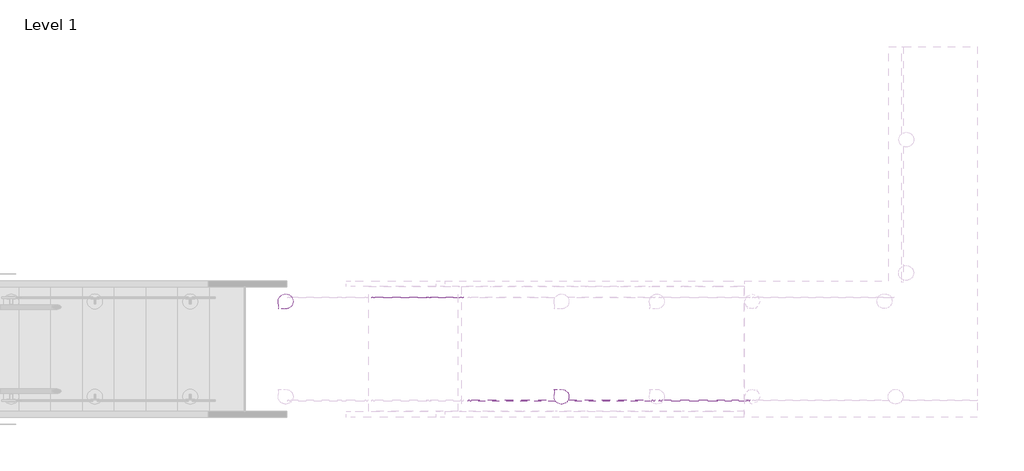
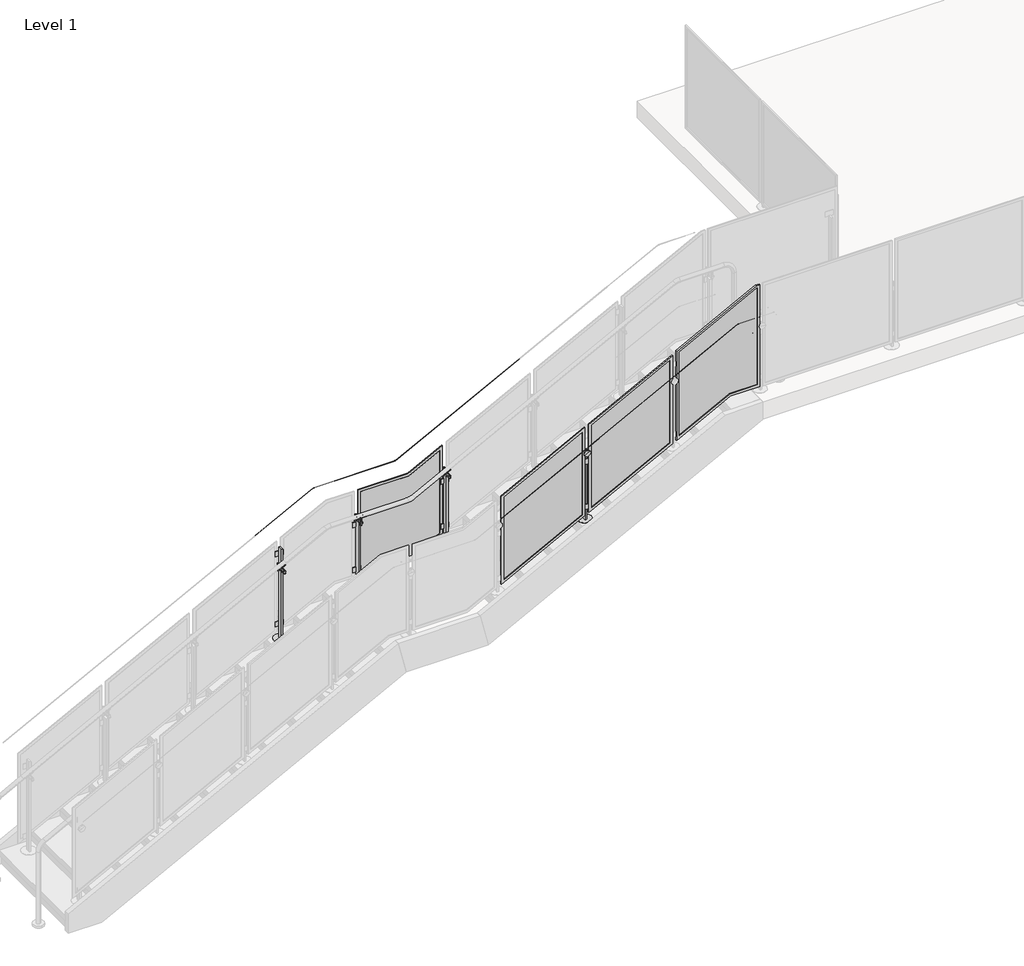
# One storey, part 26 of 28: 4 railings.
"""IFC4 building model written with IfcOpenShell, lengths in millimetres."""

from ifc_helpers import new_model, si_unit, point, frame, frame_2d, origin, place, context, project, spatial, polyline, circle_curve, ellipse_curve, trimmed, segment, composite_curve, outline, extrude, transform, mapped, element, save
from ifc_brep_helpers import plane_surface, cylinder_surface, advanced_brep
from components import standard_pp01_9a46c041, standard_pp01_feaec1d1

model = new_model("IFC4")

# Units and contexts
model_context = context("Model", 3, world=origin())
ifc_project = project(units=[si_unit("LENGTHUNIT", "METRE", prefix="MILLI")], contexts=[model_context])

# Site, building, storey
site = spatial("IfcSite", under=ifc_project)
building = spatial("IfcBuilding", under=site)
storey = spatial("IfcBuildingStorey", under=building, Name="Level 1", Elevation=0.0)

# Railings
placement = place(None, origin())
element("IfcRailing", 1, ObjectType="Metal-Panel-VIVA-STRUC-Top_Core-Stairs-Upper", at=placement, inside=storey, context=model_context, shape_type="SolidModel", body=[
    advanced_brep(
    [(-14795.2265621, 8263.5937722, 2849.6818907), (-14795.2265621, 8264.5937722, 2849.6818907), (-13118.8265621, 8263.5937722, 3720.5390336), (-13118.8265621, 8264.5937722, 3720.5390336)],
    [
        (0, 1, ellipse_curve(frame((-14795.2265621, 8264.0937722, 2849.6818907), z_axis=(-1.0, 0.0, 0.0), x_axis=(0.0, 0.0, -1.0)), 0.5634403, 0.5)),
        (1, 0, ellipse_curve(frame((-14795.2265621, 8264.0937722, 2849.6818907), z_axis=(-1.0, 0.0, 0.0), x_axis=(0.0, 0.0, -1.0)), 0.5634403, 0.5)),
        (2, 3, ellipse_curve(frame((-13118.8265621, 8264.0937722, 3720.5390336), z_axis=(1.0, 0.0, 0.0), x_axis=(0.0, 0.0, -1.0)), 0.5634403, 0.5)),
        (3, 2, ellipse_curve(frame((-13118.8265621, 8264.0937722, 3720.5390336), z_axis=(1.0, 0.0, 0.0), x_axis=(0.0, 0.0, -1.0)), 0.5634403, 0.5)),
        (0, 2),
        (3, 1),
    ],
    [
        plane_surface(frame((-14795.2265621, 8264.0937722, 2850.2453311), z_axis=(-1.0, 0.0, 0.0), x_axis=(0.0, 1.0, 0.0))),
        plane_surface(frame((-13118.8265621, 8264.0937722, 3721.1024739), z_axis=(1.0, 0.0, 0.0), x_axis=(0.0, 1.0, 0.0))),
        cylinder_surface(frame((-14794.9960672, 8264.0937722, 2849.8016284), z_axis=(-0.8874054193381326, 0.0, -0.46098982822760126), x_axis=(0.0, 1.0, 0.0)), 0.5),
    ],
    [
        (0, [[1, 2]]),
        (1, [[3, 4]]),
        (2, [[-1, 5, -4, 6]]),
        (2, [[-2, -6, -3, -5]]),
    ],
),
    extrude(outline(polyline([(3277.6949144, -13912.5806052), (2443.6978914, -13912.5806052), (2832.9488452, -13163.2725191), (3666.9458682, -13163.2725191), (3277.6949144, -13912.5806052)])), frame((0.0, 8475.1125722, 0.0), z_axis=(0.0, 1.0, 0.0), x_axis=(0.0, 0.0, 1.0)), (0.0, 0.0, 1.0), 3.0),
    extrude(outline(polyline([(2401.8803176, -13937.9806052), (2817.5208818, -13137.8725191), (3708.7634421, -13137.8725191), (3293.1228778, -13937.9806052), (2401.8803176, -13937.9806052)]), holes=[polyline([(3277.6949144, -13912.5806052), (3666.9458682, -13163.2725191), (2832.9488452, -13163.2725191), (2443.6978914, -13912.5806052), (3277.6949144, -13912.5806052)])]), frame((0.0, 8468.5875722, 0.0), z_axis=(0.0, 1.0, 0.0), x_axis=(0.0, 0.0, 1.0)), (0.0, 0.0, 1.0), 9.525),
    extrude(outline(polyline([(-13995.1272814, 8485.1469722), (-13918.9258429, 8485.1469722), (-13918.9258429, 8478.0349722), (-13995.1272814, 8478.0349722), (-13995.1272814, 8485.1469722)])), frame((0.0, 0.0, 2892.2617143), z_axis=(0.0, 0.0, 1.0), x_axis=(1.0, 0.0, 0.0)), (0.0, 0.0, 1.0), 50.8),
    extrude(outline(polyline([(-13995.1272814, 8485.1469722), (-13918.9258429, 8485.1469722), (-13918.9258429, 8478.0349722), (-13995.1272814, 8478.0349722), (-13995.1272814, 8485.1469722)])), frame((0.0, 0.0, 2435.0617143), z_axis=(0.0, 0.0, 1.0), x_axis=(1.0, 0.0, 0.0)), (0.0, 0.0, 1.0), 50.8),
    extrude(outline(composite_curve([segment(polyline([(2.9997399, 0.0), (0.0, 0.0)]), True, "CONTINUOUS"), segment(trimmed(circle_curve(frame_2d((-19.0451472, -1e-07)), 19.0451471), [point((0.0, 0.0))], [point((-23.6280664, 18.4855208))], True, "CARTESIAN"), True, "CONTINUOUS"), segment(polyline([(-23.6280664, 18.4855208), (-24.3499073, 21.3971159)]), True, "CONTINUOUS"), segment(trimmed(circle_curve(frame_2d((-19.0451472, -1e-07)), 22.0448871), [point((-24.3499073, 21.3971159))], [point((2.9997399, 0.0))], False, "CARTESIAN"), True, "CONTINUOUS")], self_intersect=False)), frame((-14019.5142726, 8539.2349722, 3044.0256993), z_axis=(0.8874054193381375, 0.0, 0.4609898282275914), x_axis=(0.2840545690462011, -0.7876022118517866, -0.5468050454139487)), (0.0, 0.0, 1.0), 79.1184357),
    advanced_brep(
    [(-13944.6293845, 8554.2349722, 2985.6859356), (-13944.6293845, 8547.0912222, 2985.6859356), (-13944.6293845, 8561.3787222, 2985.6859356), (-13980.4886307, 8547.0912222, 3054.7149846), (-13980.4886307, 8554.2349722, 3054.7149846), (-13980.4886307, 8561.3787222, 3054.7149846)],
    [
        (0, 1),
        (1, 2, circle_curve(frame((-13944.6293845, 8554.2349722, 2985.6859356), z_axis=(0.4609898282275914, 0.0, -0.8874054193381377), x_axis=(0.0, 1.0, 0.0)), 7.14375)),
        (2, 0),
        (3, 4),
        (4, 5),
        (5, 3, circle_curve(frame((-13980.4886307, 8554.2349722, 3054.7149846), z_axis=(-0.4609898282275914, 0.0, 0.8874054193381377), x_axis=(0.0, 1.0, 0.0)), 7.14375)),
        (2, 1, circle_curve(frame((-13944.6293845, 8554.2349722, 2985.6859356), z_axis=(0.4609898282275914, 0.0, -0.8874054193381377), x_axis=(0.0, 1.0, 0.0)), 7.14375)),
        (3, 5, circle_curve(frame((-13980.4886307, 8554.2349722, 3054.7149846), z_axis=(-0.4609898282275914, 0.0, 0.8874054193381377), x_axis=(0.0, 1.0, 0.0)), 7.14375)),
        (1, 3),
        (5, 2),
    ],
    [
        plane_surface(frame((-13944.6293845, 8554.2349722, 2985.6859356), z_axis=(0.4609898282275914, 0.0, -0.8874054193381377), x_axis=(0.0, 1.0, 0.0))),
        plane_surface(frame((-13980.4886307, 8554.2349722, 3054.7149846), z_axis=(-0.4609898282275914, 0.0, 0.8874054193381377), x_axis=(0.0, 1.0, 0.0))),
        cylinder_surface(frame((-13827.6751846, 8554.2349722, 2760.5491008), z_axis=(0.4609898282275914, 0.0, -0.8874054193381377), x_axis=(0.0, 1.0, 0.0)), 7.14375),
    ],
    [
        (0, [[1, 2, 3]]),
        (1, [[4, 5, 6]]),
        (0, [[-3, 7, -1]]),
        (1, [[-5, -4, 8]]),
        (2, [[9, -6, 10, -2]]),
        (2, [[-10, -8, -9, -7]]),
    ],
),
    advanced_brep(
    [(-13983.7929281, 8468.5099722, 2995.6458968), (-13962.6615865, 8468.5099722, 3006.6232171), (-13951.3915377, 8468.5099722, 3012.4777879), (-13930.2601962, 8468.5099722, 3023.4551082), (-13983.7929281, 8460.5724722, 2995.6458968), (-13930.2601962, 8460.5724722, 3023.4551082), (-13983.7929281, 8485.9724722, 2995.6458968), (-13968.2966109, 8485.9724722, 3003.6959317), (-13945.7565133, 8485.9724722, 3015.4050733), (-13930.2601962, 8485.9724722, 3023.4551082), (-13983.7929281, 8478.0349722, 2995.6458968), (-13930.2601962, 8478.0349722, 3023.4551082), (-13957.0265621, 8460.5724722, 3009.5505025), (-13968.2966109, 8565.3474722, 3003.6959317), (-13957.0265621, 8565.3474722, 3009.5505025), (-13945.7565133, 8565.3474722, 3015.4050733), (-13962.6615865, 8478.0349722, 3006.6232171), (-13951.3915377, 8478.0349722, 3012.4777879)],
    [
        (0, 1),
        (1, 2, circle_curve(frame((-13957.0265621, 8468.5099722, 3009.5505025), z_axis=(0.0, -1.0, 0.0), x_axis=(0.8874054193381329, 0.0, 0.4609898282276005)), 6.35)),
        (2, 3),
        (3, 0, circle_curve(frame((-13957.0265621, 8468.5099722, 3009.5505025), z_axis=(0.0, 1.0, 0.0), x_axis=(0.8874054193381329, 0.0, 0.4609898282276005)), 30.1625)),
        (4, 0),
        (3, 5),
        (5, 4, circle_curve(frame((-13957.0265621, 8460.5724722, 3009.5505025), z_axis=(0.0, 1.0, 0.0), x_axis=(0.8874054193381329, 0.0, 0.4609898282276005)), 30.1625)),
        (6, 7),
        (7, 8, circle_curve(frame((-13957.0265621, 8485.9724722, 3009.5505025), z_axis=(0.0, -1.0, 0.0), x_axis=(0.8874054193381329, 0.0, 0.4609898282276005)), 12.7)),
        (8, 9),
        (9, 6, circle_curve(frame((-13957.0265621, 8485.9724722, 3009.5505025), z_axis=(0.0, 1.0, 0.0), x_axis=(0.8874054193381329, 0.0, 0.4609898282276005)), 30.1625)),
        (10, 6),
        (9, 11),
        (11, 10, circle_curve(frame((-13957.0265621, 8478.0349722, 3009.5505025), z_axis=(0.0, 1.0, 0.0), x_axis=(0.8874054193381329, 0.0, 0.4609898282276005)), 30.1625)),
        (3, 0, circle_curve(frame((-13957.0265621, 8468.5099722, 3009.5505025), z_axis=(0.0, -1.0, 0.0), x_axis=(0.8874054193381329, 0.0, 0.4609898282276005)), 30.1625)),
        (4, 5, circle_curve(frame((-13957.0265621, 8460.5724722, 3009.5505025), z_axis=(0.0, 1.0, 0.0), x_axis=(0.8874054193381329, 0.0, 0.4609898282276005)), 30.1625)),
        (12, 4),
        (5, 12),
        (13, 14),
        (14, 15),
        (15, 13, circle_curve(frame((-13957.0265621, 8565.3474722, 3009.5505025), z_axis=(0.0, 1.0, 0.0), x_axis=(0.8874054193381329, 0.0, 0.4609898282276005)), 12.7)),
        (13, 15, circle_curve(frame((-13957.0265621, 8565.3474722, 3009.5505025), z_axis=(0.0, 1.0, 0.0), x_axis=(0.8874054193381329, 0.0, 0.4609898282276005)), 12.7)),
        (7, 13),
        (15, 8),
        (7, 8, circle_curve(frame((-13957.0265621, 8485.9724722, 3009.5505025), z_axis=(0.0, 1.0, 0.0), x_axis=(0.8874054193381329, 0.0, 0.4609898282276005)), 12.7)),
        (6, 9, circle_curve(frame((-13957.0265621, 8485.9724722, 3009.5505025), z_axis=(0.0, 1.0, 0.0), x_axis=(0.8874054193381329, 0.0, 0.4609898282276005)), 30.1625)),
        (10, 11, circle_curve(frame((-13957.0265621, 8478.0349722, 3009.5505025), z_axis=(0.0, 1.0, 0.0), x_axis=(0.8874054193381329, 0.0, 0.4609898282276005)), 30.1625)),
        (16, 10),
        (11, 17),
        (17, 16, circle_curve(frame((-13957.0265621, 8478.0349722, 3009.5505025), z_axis=(0.0, 1.0, 0.0), x_axis=(0.8874054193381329, 0.0, 0.4609898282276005)), 6.35)),
        (16, 17, circle_curve(frame((-13957.0265621, 8478.0349722, 3009.5505025), z_axis=(0.0, 1.0, 0.0), x_axis=(0.8874054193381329, 0.0, 0.4609898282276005)), 6.35)),
        (1, 16),
        (17, 2),
        (1, 2, circle_curve(frame((-13957.0265621, 8468.5099722, 3009.5505025), z_axis=(0.0, 1.0, 0.0), x_axis=(0.8874054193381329, 0.0, 0.4609898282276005)), 6.35)),
    ],
    [
        plane_surface(frame((-13957.0265621, 8468.5099722, 3009.5505025), z_axis=(0.0, 1.0, 0.0), x_axis=(0.8874054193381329, 0.0, 0.4609898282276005))),
        cylinder_surface(frame((-13957.0265621, 6954.0349722, 3009.5505025), z_axis=(0.0, -1.0, 0.0), x_axis=(0.8874054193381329, 0.0, 0.4609898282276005)), 30.1625),
        plane_surface(frame((-13957.0265621, 8485.9724722, 3009.5505025), z_axis=(0.0, 1.0, 0.0), x_axis=(0.8874054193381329, 0.0, 0.4609898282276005))),
        plane_surface(frame((-13957.0265621, 8460.5724722, 3009.5505025), z_axis=(0.0, -1.0, 0.0), x_axis=(0.8874054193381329, 0.0, 0.4609898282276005))),
        plane_surface(frame((-13957.0265621, 8565.3474722, 3009.5505025), z_axis=(0.0, 1.0, 0.0), x_axis=(0.8874054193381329, 0.0, 0.4609898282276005))),
        cylinder_surface(frame((-13957.0265621, 6954.0349722, 3009.5505025), z_axis=(0.0, -1.0, 0.0), x_axis=(0.8874054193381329, 0.0, 0.4609898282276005)), 12.7),
        plane_surface(frame((-13957.0265621, 8478.0349722, 3009.5505025), z_axis=(0.0, -1.0, 0.0), x_axis=(0.8874054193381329, 0.0, 0.4609898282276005))),
        cylinder_surface(frame((-13957.0265621, 6954.0349722, 3009.5505025), z_axis=(0.0, -1.0, 0.0), x_axis=(0.8874054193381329, 0.0, 0.4609898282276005)), 6.35),
    ],
    [
        (0, [[1, 2, 3, 4]]),
        (1, [[5, -4, 6, 7]]),
        (2, [[8, 9, 10, 11]]),
        (1, [[12, -11, 13, 14]]),
        (1, [[-6, 15, -5, 16]]),
        (3, [[17, -7, 18]]),
        (3, [[-18, -16, -17]]),
        (4, [[19, 20, 21]]),
        (4, [[-20, -19, 22]]),
        (5, [[23, -21, 24, -9]]),
        (5, [[-24, -22, -23, 25]]),
        (2, [[-10, -25, -8, 26]]),
        (1, [[-13, -26, -12, 27]]),
        (6, [[28, -14, 29, 30]]),
        (6, [[-29, -27, -28, 31]]),
        (7, [[32, -30, 33, -2]]),
        (7, [[-33, -31, -32, 34]]),
        (0, [[-3, -34, -1, -15]]),
    ],
),
    extrude(outline(composite_curve([segment(trimmed(circle_curve(frame_2d((-13957.0265621, 8507.3719722)), 65.8876), [point((-13957.0265621, 8441.4843722))], [point((-13957.0265621, 8573.2595722))], False, "CARTESIAN"), True, "CONTINUOUS"), segment(trimmed(circle_curve(frame_2d((-13957.0265621, 8507.3719722)), 65.8876), [point((-13957.0265621, 8573.2595722))], [point((-13957.0265621, 8441.4843722))], False, "CARTESIAN"), True, "CONTINUOUS")], self_intersect=False)), frame((0.0, 0.0, 2322.2857143), z_axis=(0.0, 0.0, 1.0), x_axis=(1.0, 0.0, 0.0)), (0.0, 0.0, 1.0), 2.9821299),
    extrude(outline(polyline([(-13964.9661538, 8529.5969722), (-13949.0869705, 8529.5969722), (-13949.0869705, 8485.1469722), (-13964.9661538, 8485.1469722), (-13964.9661538, 8529.5969722)])), frame((0.0, 0.0, 2220.6857143), z_axis=(0.0, 0.0, 1.0), x_axis=(1.0, 0.0, 0.0)), (0.0, 0.0, 1.0), 762.0),
    extrude(outline(polyline([(2842.266343, -14750.7806052), (2008.26932, -14750.7806052), (2397.5202738, -14001.4725191), (3231.5172968, -14001.4725191), (2842.266343, -14750.7806052)])), frame((0.0, 8475.1125722, 0.0), z_axis=(0.0, 1.0, 0.0), x_axis=(0.0, 0.0, 1.0)), (0.0, 0.0, 1.0), 3.0),
    extrude(outline(polyline([(1966.4517462, -14776.1806052), (2382.0923104, -13976.0725191), (3273.3348706, -13976.0725191), (2857.6943064, -14776.1806052), (1966.4517462, -14776.1806052)]), holes=[polyline([(2842.266343, -14750.7806052), (3231.5172968, -14001.4725191), (2397.5202738, -14001.4725191), (2008.26932, -14750.7806052), (2842.266343, -14750.7806052)])]), frame((0.0, 8468.5875722, 0.0), z_axis=(0.0, 1.0, 0.0), x_axis=(0.0, 0.0, 1.0)), (0.0, 0.0, 1.0), 9.525),
])
element("IfcRailing", 2, ObjectType="Metal-Panel-VIVA-STRUC-Top_Core-Stairs-Landing", at=placement, inside=storey, context=model_context, shape_type="SolidModel", body=[
    advanced_brep(
    [(-16484.3313244, 9587.7913722, 2381.2638324), (-16484.3313244, 9588.7913722, 2381.2638324), (-15931.7592018, 9587.7913722, 2668.3142857), (-15931.7592018, 9588.7913722, 2668.3142857), (-15144.3592018, 9587.7913722, 2668.3142857), (-15144.3592018, 9588.7913722, 2668.3142857), (-13959.1395244, 9587.7913722, 3284.0128194), (-13959.1395244, 9588.7913722, 3284.0128194)],
    [
        (0, 1, ellipse_curve(frame((-16484.3313244, 9588.2913722, 2381.2638324), z_axis=(-1.0, 0.0, 0.0), x_axis=(0.0, 0.0, -1.0)), 0.5634403, 0.5)),
        (1, 0, ellipse_curve(frame((-16484.3313244, 9588.2913722, 2381.2638324), z_axis=(-1.0, 0.0, 0.0), x_axis=(0.0, 0.0, -1.0)), 0.5634403, 0.5)),
        (0, 2),
        (2, 3, ellipse_curve(frame((-15931.7592018, 9588.2913722, 2668.3142857), z_axis=(-0.9714436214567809, 0.0, -0.23727050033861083), x_axis=(0.23727050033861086, 0.0, -0.9714436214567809)), 0.5146979, 0.5)),
        (3, 1),
        (3, 2, ellipse_curve(frame((-15931.7592018, 9588.2913722, 2668.3142857), z_axis=(-0.9714436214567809, 0.0, -0.23727050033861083), x_axis=(0.23727050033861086, 0.0, -0.9714436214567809)), 0.5146979, 0.5)),
        (2, 4),
        (4, 5, ellipse_curve(frame((-15144.3592018, 9588.2913722, 2668.3142857), z_axis=(-0.9714436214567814, 0.0, -0.23727050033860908), x_axis=(-0.23727050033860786, 0.0, 0.9714436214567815)), 0.5146979, 0.5)),
        (5, 3),
        (5, 4, ellipse_curve(frame((-15144.3592018, 9588.2913722, 2668.3142857), z_axis=(-0.9714436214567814, 0.0, -0.23727050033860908), x_axis=(-0.23727050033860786, 0.0, 0.9714436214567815)), 0.5146979, 0.5)),
        (6, 7, ellipse_curve(frame((-13959.1395244, 9588.2913722, 3284.0128194), z_axis=(1.0, 0.0, 0.0), x_axis=(0.0, 0.0, -1.0)), 0.5634403, 0.5)),
        (7, 6, ellipse_curve(frame((-13959.1395244, 9588.2913722, 3284.0128194), z_axis=(1.0, 0.0, 0.0), x_axis=(0.0, 0.0, -1.0)), 0.5634403, 0.5)),
        (4, 6),
        (7, 5),
    ],
    [
        plane_surface(frame((-16484.3313244, 9588.2913722, 2381.8272727), z_axis=(-1.0, 0.0, 0.0), x_axis=(0.0, 1.0, 0.0))),
        cylinder_surface(frame((-16484.1008295, 9588.2913722, 2381.38357), z_axis=(-0.8874054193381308, 0.0, -0.4609898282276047), x_axis=(0.0, 1.0, 0.0)), 0.5),
        cylinder_surface(frame((-15931.8813244, 9588.2913722, 2668.3142857), z_axis=(-1.0, 0.0, 0.0), x_axis=(0.0, 1.0, 0.0)), 0.5),
        plane_surface(frame((-13959.1395244, 9588.2913722, 3284.5762597), z_axis=(1.0, 0.0, 0.0), x_axis=(0.0, 1.0, 0.0))),
        cylinder_surface(frame((-15144.2508295, 9588.2913722, 2668.370583), z_axis=(-0.8874054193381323, 0.0, -0.46098982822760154), x_axis=(0.0, 1.0, 0.0)), 0.5),
    ],
    [
        (0, [[1, 2]]),
        (1, [[-1, 3, 4, 5]]),
        (1, [[-2, -5, 6, -3]]),
        (2, [[-4, 7, 8, 9]]),
        (2, [[-6, -9, 10, -7]]),
        (3, [[11, 12]]),
        (4, [[-8, 13, -12, 14]]),
        (4, [[-10, -14, -11, -13]]),
    ],
),
    extrude(outline(polyline([(-14838.9708437, 9367.2381722), (-14838.9708437, 9374.3501722), (-14762.7694052, 9374.3501722), (-14762.7694052, 9367.2381722), (-14838.9708437, 9367.2381722)])), frame((0.0, 0.0, 2456.8331429), z_axis=(0.0, 0.0, 1.0), x_axis=(1.0, 0.0, 0.0)), (0.0, 0.0, 1.0), 50.8),
    extrude(outline(polyline([(-14838.9708437, 9367.2381722), (-14838.9708437, 9374.3501722), (-14762.7694052, 9374.3501722), (-14762.7694052, 9367.2381722), (-14838.9708437, 9367.2381722)])), frame((0.0, 0.0, 1999.6331429), z_axis=(0.0, 0.0, 1.0), x_axis=(1.0, 0.0, 0.0)), (0.0, 0.0, 1.0), 50.8),
    extrude(outline(composite_curve([segment(trimmed(circle_curve(frame_2d((-19.0451472, 1e-07)), 22.0448871), [point((2.9997401, 0.0))], [point((-24.3499072, -21.3971159))], False, "CARTESIAN"), True, "CONTINUOUS"), segment(polyline([(-24.3499072, -21.3971159), (-23.6280664, -18.4855208)]), True, "CONTINUOUS"), segment(trimmed(circle_curve(frame_2d((-19.0451472, 1e-07)), 19.0451471), [point((-23.6280664, -18.4855208))], [point((0.0, 0.0))], True, "CARTESIAN"), True, "CONTINUOUS"), segment(polyline([(0.0, 0.0), (2.9997401, 0.0)]), True, "CONTINUOUS")], self_intersect=False)), frame((-14863.3578349, 9313.1501722, 2605.6654072), z_axis=(0.8874054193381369, 0.0, 0.4609898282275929), x_axis=(0.28405456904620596, 0.7876022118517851, -0.5468050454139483)), (0.0, 0.0, 1.0), 79.1184357),
    advanced_brep(
    [(-14788.4729468, 9298.1501722, 2547.3256434), (-14788.4729468, 9291.0064222, 2547.3256434), (-14788.4729468, 9305.2939222, 2547.3256434), (-14824.3321931, 9305.2939222, 2616.3546925), (-14824.3321931, 9291.0064222, 2616.3546925), (-14824.3321931, 9298.1501722, 2616.3546925)],
    [
        (0, 1),
        (1, 2, circle_curve(frame((-14788.4729468, 9298.1501722, 2547.3256434), z_axis=(0.46098982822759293, 0.0, -0.8874054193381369), x_axis=(0.0, -1.0, 0.0)), 7.14375)),
        (2, 0),
        (3, 4, circle_curve(frame((-14824.3321931, 9298.1501722, 2616.3546925), z_axis=(-0.46098982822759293, 0.0, 0.8874054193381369), x_axis=(0.0, -1.0, 0.0)), 7.14375)),
        (4, 5),
        (5, 3),
        (2, 1, circle_curve(frame((-14788.4729468, 9298.1501722, 2547.3256434), z_axis=(0.46098982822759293, 0.0, -0.8874054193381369), x_axis=(0.0, -1.0, 0.0)), 7.14375)),
        (4, 3, circle_curve(frame((-14824.3321931, 9298.1501722, 2616.3546925), z_axis=(-0.46098982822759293, 0.0, 0.8874054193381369), x_axis=(0.0, -1.0, 0.0)), 7.14375)),
        (1, 4),
        (3, 2),
    ],
    [
        plane_surface(frame((-14788.4729468, 9298.1501722, 2547.3256434), z_axis=(0.46098982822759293, 0.0, -0.8874054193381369), x_axis=(0.0, -1.0, 0.0))),
        plane_surface(frame((-14824.3321931, 9298.1501722, 2616.3546925), z_axis=(-0.46098982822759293, 0.0, 0.8874054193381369), x_axis=(0.0, -1.0, 0.0))),
        cylinder_surface(frame((-14671.5187469, 9298.1501722, 2322.1888087), z_axis=(0.46098982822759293, 0.0, -0.8874054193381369), x_axis=(0.0, -1.0, 0.0)), 7.14375),
    ],
    [
        (0, [[1, 2, 3]]),
        (1, [[4, 5, 6]]),
        (0, [[-3, 7, -1]]),
        (1, [[8, -6, -5]]),
        (2, [[-2, 9, -4, 10]]),
        (2, [[-7, -10, -8, -9]]),
    ],
),
    advanced_brep(
    [(-14827.6364904, 9383.8751722, 2557.2856047), (-14774.1037585, 9383.8751722, 2585.0948161), (-14795.2351, 9383.8751722, 2574.1174958), (-14806.5051488, 9383.8751722, 2568.262925), (-14827.6364904, 9391.8126722, 2557.2856047), (-14774.1037585, 9391.8126722, 2585.0948161), (-14827.6364904, 9366.4126722, 2557.2856047), (-14774.1037585, 9366.4126722, 2585.0948161), (-14789.6000756, 9366.4126722, 2577.0447812), (-14812.1401733, 9366.4126722, 2565.3356396), (-14827.6364904, 9374.3501722, 2557.2856047), (-14774.1037585, 9374.3501722, 2585.0948161), (-14800.8701244, 9391.8126722, 2571.1902104), (-14812.1401733, 9287.0376722, 2565.3356396), (-14789.6000756, 9287.0376722, 2577.0447812), (-14800.8701244, 9287.0376722, 2571.1902104), (-14806.5051488, 9374.3501722, 2568.262925), (-14795.2351, 9374.3501722, 2574.1174958)],
    [
        (0, 1, circle_curve(frame((-14800.8701244, 9383.8751722, 2571.1902104), z_axis=(0.0, -1.0, 0.0), x_axis=(0.8874054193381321, 0.0, 0.46098982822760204)), 30.1625)),
        (1, 2),
        (2, 3, circle_curve(frame((-14800.8701244, 9383.8751722, 2571.1902104), z_axis=(0.0, 1.0, 0.0), x_axis=(0.8874054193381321, 0.0, 0.46098982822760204)), 6.35)),
        (3, 0),
        (4, 5, circle_curve(frame((-14800.8701244, 9391.8126722, 2571.1902104), z_axis=(0.0, -1.0, 0.0), x_axis=(0.8874054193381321, 0.0, 0.46098982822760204)), 30.1625)),
        (5, 1),
        (0, 4),
        (6, 7, circle_curve(frame((-14800.8701244, 9366.4126722, 2571.1902104), z_axis=(0.0, -1.0, 0.0), x_axis=(0.8874054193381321, 0.0, 0.46098982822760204)), 30.1625)),
        (7, 8),
        (8, 9, circle_curve(frame((-14800.8701244, 9366.4126722, 2571.1902104), z_axis=(0.0, 1.0, 0.0), x_axis=(0.8874054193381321, 0.0, 0.46098982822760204)), 12.7)),
        (9, 6),
        (10, 11, circle_curve(frame((-14800.8701244, 9374.3501722, 2571.1902104), z_axis=(0.0, -1.0, 0.0), x_axis=(0.8874054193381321, 0.0, 0.46098982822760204)), 30.1625)),
        (11, 7),
        (6, 10),
        (5, 4, circle_curve(frame((-14800.8701244, 9391.8126722, 2571.1902104), z_axis=(0.0, -1.0, 0.0), x_axis=(0.8874054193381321, 0.0, 0.46098982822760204)), 30.1625)),
        (0, 1, circle_curve(frame((-14800.8701244, 9383.8751722, 2571.1902104), z_axis=(0.0, 1.0, 0.0), x_axis=(0.8874054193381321, 0.0, 0.46098982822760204)), 30.1625)),
        (12, 5),
        (4, 12),
        (13, 14, circle_curve(frame((-14800.8701244, 9287.0376722, 2571.1902104), z_axis=(0.0, -1.0, 0.0), x_axis=(0.8874054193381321, 0.0, 0.46098982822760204)), 12.7)),
        (14, 15),
        (15, 13),
        (14, 13, circle_curve(frame((-14800.8701244, 9287.0376722, 2571.1902104), z_axis=(0.0, -1.0, 0.0), x_axis=(0.8874054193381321, 0.0, 0.46098982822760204)), 12.7)),
        (8, 14),
        (13, 9),
        (8, 9, circle_curve(frame((-14800.8701244, 9366.4126722, 2571.1902104), z_axis=(0.0, -1.0, 0.0), x_axis=(0.8874054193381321, 0.0, 0.46098982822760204)), 12.7)),
        (7, 6, circle_curve(frame((-14800.8701244, 9366.4126722, 2571.1902104), z_axis=(0.0, -1.0, 0.0), x_axis=(0.8874054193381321, 0.0, 0.46098982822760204)), 30.1625)),
        (11, 10, circle_curve(frame((-14800.8701244, 9374.3501722, 2571.1902104), z_axis=(0.0, -1.0, 0.0), x_axis=(0.8874054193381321, 0.0, 0.46098982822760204)), 30.1625)),
        (16, 17, circle_curve(frame((-14800.8701244, 9374.3501722, 2571.1902104), z_axis=(0.0, -1.0, 0.0), x_axis=(0.8874054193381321, 0.0, 0.46098982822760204)), 6.35)),
        (17, 11),
        (10, 16),
        (17, 16, circle_curve(frame((-14800.8701244, 9374.3501722, 2571.1902104), z_axis=(0.0, -1.0, 0.0), x_axis=(0.8874054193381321, 0.0, 0.46098982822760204)), 6.35)),
        (2, 17),
        (16, 3),
        (2, 3, circle_curve(frame((-14800.8701244, 9383.8751722, 2571.1902104), z_axis=(0.0, -1.0, 0.0), x_axis=(0.8874054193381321, 0.0, 0.46098982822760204)), 6.35)),
    ],
    [
        plane_surface(frame((-14800.8701244, 9383.8751722, 2571.1902104), z_axis=(0.0, -1.0, 0.0), x_axis=(0.8874054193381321, 0.0, 0.46098982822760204))),
        cylinder_surface(frame((-14800.8701244, 10898.3501722, 2571.1902104), z_axis=(0.0, 1.0, 0.0), x_axis=(0.8874054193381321, 0.0, 0.46098982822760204)), 30.1625),
        plane_surface(frame((-14800.8701244, 9366.4126722, 2571.1902104), z_axis=(0.0, -1.0, 0.0), x_axis=(0.8874054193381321, 0.0, 0.46098982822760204))),
        plane_surface(frame((-14800.8701244, 9391.8126722, 2571.1902104), z_axis=(0.0, 1.0, 0.0), x_axis=(0.8874054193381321, 0.0, 0.46098982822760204))),
        plane_surface(frame((-14800.8701244, 9287.0376722, 2571.1902104), z_axis=(0.0, -1.0, 0.0), x_axis=(0.8874054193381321, 0.0, 0.46098982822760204))),
        cylinder_surface(frame((-14800.8701244, 10898.3501722, 2571.1902104), z_axis=(0.0, 1.0, 0.0), x_axis=(0.8874054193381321, 0.0, 0.46098982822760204)), 12.7),
        plane_surface(frame((-14800.8701244, 9374.3501722, 2571.1902104), z_axis=(0.0, 1.0, 0.0), x_axis=(0.8874054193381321, 0.0, 0.46098982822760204))),
        cylinder_surface(frame((-14800.8701244, 10898.3501722, 2571.1902104), z_axis=(0.0, 1.0, 0.0), x_axis=(0.8874054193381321, 0.0, 0.46098982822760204)), 6.35),
    ],
    [
        (0, [[1, 2, 3, 4]]),
        (1, [[5, 6, -1, 7]]),
        (2, [[8, 9, 10, 11]]),
        (1, [[12, 13, -8, 14]]),
        (1, [[15, -7, 16, -6]]),
        (3, [[17, -5, 18]]),
        (3, [[-18, -15, -17]]),
        (4, [[19, 20, 21]]),
        (4, [[22, -21, -20]]),
        (5, [[-10, 23, -19, 24]]),
        (5, [[25, -24, -22, -23]]),
        (2, [[26, -11, -25, -9]]),
        (1, [[27, -14, -26, -13]]),
        (6, [[28, 29, -12, 30]]),
        (6, [[31, -30, -27, -29]]),
        (7, [[-3, 32, -28, 33]]),
        (7, [[34, -33, -31, -32]]),
        (0, [[-16, -4, -34, -2]]),
    ],
),
    extrude(outline(composite_curve([segment(trimmed(circle_curve(frame_2d((-14800.8701244, 9345.0131722)), 65.8876), [point((-14800.8701244, 9410.9007722))], [point((-14800.8701244, 9279.1255722))], False, "CARTESIAN"), True, "CONTINUOUS"), segment(trimmed(circle_curve(frame_2d((-14800.8701244, 9345.0131722)), 65.8876), [point((-14800.8701244, 9279.1255722))], [point((-14800.8701244, 9410.9007722))], False, "CARTESIAN"), True, "CONTINUOUS")], self_intersect=False)), frame((0.0, 0.0, 1886.8571429), z_axis=(0.0, 0.0, 1.0), x_axis=(1.0, 0.0, 0.0)), (0.0, 0.0, 1.0), 2.9821299),
    extrude(outline(polyline([(-14808.8097161, 9322.7881722), (-14808.8097161, 9367.2381722), (-14792.9305328, 9367.2381722), (-14792.9305328, 9322.7881722), (-14808.8097161, 9322.7881722)])), frame((0.0, 0.0, 1785.2571429), z_axis=(0.0, 0.0, 1.0), x_axis=(1.0, 0.0, 0.0)), (0.0, 0.0, 1.0), 762.0),
    extrude(outline(polyline([(-15680.7014437, 9367.2381722), (-15680.7014437, 9374.3501722), (-15604.5000052, 9374.3501722), (-15604.5000052, 9367.2381722), (-15680.7014437, 9367.2381722)])), frame((0.0, 0.0, 2311.6902857), z_axis=(0.0, 0.0, 1.0), x_axis=(1.0, 0.0, 0.0)), (0.0, 0.0, 1.0), 50.8),
    extrude(outline(polyline([(-15680.7014437, 9367.2381722), (-15680.7014437, 9374.3501722), (-15604.5000052, 9374.3501722), (-15604.5000052, 9367.2381722), (-15680.7014437, 9367.2381722)])), frame((0.0, 0.0, 1854.4902857), z_axis=(0.0, 0.0, 1.0), x_axis=(1.0, 0.0, 0.0)), (0.0, 0.0, 1.0), 50.8),
    extrude(outline(composite_curve([segment(trimmed(circle_curve(frame_2d((9298.1501722, 2463.8258766)), 22.0448871), [point((9315.5127741, 2450.2421693))], [point((9280.7875704, 2450.2421693))], False, "CARTESIAN"), True, "CONTINUOUS"), segment(polyline([(9280.7875704, 2450.2421693), (9283.1501722, 2452.0905611)]), True, "CONTINUOUS"), segment(trimmed(circle_curve(frame_2d((9298.1501722, 2463.8258766)), 19.0451471), [point((9283.1501722, 2452.0905611))], [point((9313.1501722, 2452.0905611))], True, "CARTESIAN"), True, "CONTINUOUS"), segment(polyline([(9313.1501722, 2452.0905611), (9315.5127741, 2450.2421693)]), True, "CONTINUOUS")], self_intersect=False)), frame((-15682.1599423, 0.0, 0.0), z_axis=(1.0, 0.0, 0.0), x_axis=(0.0, 1.0, 0.0)), (0.0, 0.0, 1.0), 79.1184357),
    advanced_brep(
    [(-15642.6007244, 9298.1501722, 2365.7983669), (-15642.6007244, 9291.0064222, 2365.7983669), (-15642.6007244, 9305.2939222, 2365.7983669), (-15642.6007244, 9305.2939222, 2443.5858669), (-15642.6007244, 9291.0064222, 2443.5858669), (-15642.6007244, 9298.1501722, 2443.5858669)],
    [
        (0, 1),
        (1, 2, circle_curve(frame((-15642.6007244, 9298.1501722, 2365.7983669), z_axis=(0.0, 0.0, -1.0), x_axis=(0.0, -1.0, 0.0)), 7.14375)),
        (2, 0),
        (3, 4, circle_curve(frame((-15642.6007244, 9298.1501722, 2443.5858669), z_axis=(0.0, 0.0, 1.0), x_axis=(0.0, -1.0, 0.0)), 7.14375)),
        (4, 5),
        (5, 3),
        (2, 1, circle_curve(frame((-15642.6007244, 9298.1501722, 2365.7983669), z_axis=(0.0, 0.0, -1.0), x_axis=(0.0, -1.0, 0.0)), 7.14375)),
        (4, 3, circle_curve(frame((-15642.6007244, 9298.1501722, 2443.5858669), z_axis=(0.0, 0.0, 1.0), x_axis=(0.0, -1.0, 0.0)), 7.14375)),
        (1, 4),
        (3, 2),
    ],
    [
        plane_surface(frame((-15642.6007244, 9298.1501722, 2365.7983669), z_axis=(0.0, 0.0, -1.0), x_axis=(0.0, -1.0, 0.0))),
        plane_surface(frame((-15642.6007244, 9298.1501722, 2443.5858669), z_axis=(0.0, 0.0, 1.0), x_axis=(0.0, -1.0, 0.0))),
        cylinder_surface(frame((-15642.6007244, 9298.1501722, 2112.0960231), z_axis=(0.0, 0.0, -1.0), x_axis=(0.0, -1.0, 0.0)), 7.14375),
    ],
    [
        (0, [[1, 2, 3]]),
        (1, [[4, 5, 6]]),
        (0, [[-3, 7, -1]]),
        (1, [[8, -6, -5]]),
        (2, [[-2, 9, -4, 10]]),
        (2, [[-7, -10, -8, -9]]),
    ],
),
    advanced_brep(
    [(-15672.7632244, 9383.8751722, 2392.6908857), (-15612.4382244, 9383.8751722, 2392.6908857), (-15636.2507244, 9383.8751722, 2392.6908857), (-15648.9507244, 9383.8751722, 2392.6908857), (-15672.7632244, 9391.8126722, 2392.6908857), (-15612.4382244, 9391.8126722, 2392.6908857), (-15672.7632244, 9366.4126722, 2392.6908857), (-15612.4382244, 9366.4126722, 2392.6908857), (-15629.9007244, 9366.4126722, 2392.6908857), (-15655.3007244, 9366.4126722, 2392.6908857), (-15672.7632244, 9374.3501722, 2392.6908857), (-15612.4382244, 9374.3501722, 2392.6908857), (-15642.6007244, 9391.8126722, 2392.6908857), (-15655.3007244, 9287.0376722, 2392.6908857), (-15629.9007244, 9287.0376722, 2392.6908857), (-15642.6007244, 9287.0376722, 2392.6908857), (-15648.9507244, 9374.3501722, 2392.6908857), (-15636.2507244, 9374.3501722, 2392.6908857)],
    [
        (0, 1, circle_curve(frame((-15642.6007244, 9383.8751722, 2392.6908857), z_axis=(0.0, -1.0, 0.0), x_axis=(1.0, 0.0, 0.0)), 30.1625)),
        (1, 2),
        (2, 3, circle_curve(frame((-15642.6007244, 9383.8751722, 2392.6908857), z_axis=(0.0, 1.0, 0.0), x_axis=(1.0, 0.0, 0.0)), 6.35)),
        (3, 0),
        (4, 5, circle_curve(frame((-15642.6007244, 9391.8126722, 2392.6908857), z_axis=(0.0, -1.0, 0.0), x_axis=(1.0, 0.0, 0.0)), 30.1625)),
        (5, 1),
        (0, 4),
        (6, 7, circle_curve(frame((-15642.6007244, 9366.4126722, 2392.6908857), z_axis=(0.0, -1.0, 0.0), x_axis=(1.0, 0.0, 0.0)), 30.1625)),
        (7, 8),
        (8, 9, circle_curve(frame((-15642.6007244, 9366.4126722, 2392.6908857), z_axis=(0.0, 1.0, 0.0), x_axis=(1.0, 0.0, 0.0)), 12.7)),
        (9, 6),
        (10, 11, circle_curve(frame((-15642.6007244, 9374.3501722, 2392.6908857), z_axis=(0.0, -1.0, 0.0), x_axis=(1.0, 0.0, 0.0)), 30.1625)),
        (11, 7),
        (6, 10),
        (5, 4, circle_curve(frame((-15642.6007244, 9391.8126722, 2392.6908857), z_axis=(0.0, -1.0, 0.0), x_axis=(1.0, 0.0, 0.0)), 30.1625)),
        (0, 1, circle_curve(frame((-15642.6007244, 9383.8751722, 2392.6908857), z_axis=(0.0, 1.0, 0.0), x_axis=(1.0, 0.0, 0.0)), 30.1625)),
        (12, 5),
        (4, 12),
        (13, 14, circle_curve(frame((-15642.6007244, 9287.0376722, 2392.6908857), z_axis=(0.0, -1.0, 0.0), x_axis=(1.0, 0.0, 0.0)), 12.7)),
        (14, 15),
        (15, 13),
        (14, 13, circle_curve(frame((-15642.6007244, 9287.0376722, 2392.6908857), z_axis=(0.0, -1.0, 0.0), x_axis=(1.0, 0.0, 0.0)), 12.7)),
        (8, 14),
        (13, 9),
        (8, 9, circle_curve(frame((-15642.6007244, 9366.4126722, 2392.6908857), z_axis=(0.0, -1.0, 0.0), x_axis=(1.0, 0.0, 0.0)), 12.7)),
        (7, 6, circle_curve(frame((-15642.6007244, 9366.4126722, 2392.6908857), z_axis=(0.0, -1.0, 0.0), x_axis=(1.0, 0.0, 0.0)), 30.1625)),
        (11, 10, circle_curve(frame((-15642.6007244, 9374.3501722, 2392.6908857), z_axis=(0.0, -1.0, 0.0), x_axis=(1.0, 0.0, 0.0)), 30.1625)),
        (16, 17, circle_curve(frame((-15642.6007244, 9374.3501722, 2392.6908857), z_axis=(0.0, -1.0, 0.0), x_axis=(1.0, 0.0, 0.0)), 6.35)),
        (17, 11),
        (10, 16),
        (17, 16, circle_curve(frame((-15642.6007244, 9374.3501722, 2392.6908857), z_axis=(0.0, -1.0, 0.0), x_axis=(1.0, 0.0, 0.0)), 6.35)),
        (2, 17),
        (16, 3),
        (2, 3, circle_curve(frame((-15642.6007244, 9383.8751722, 2392.6908857), z_axis=(0.0, -1.0, 0.0), x_axis=(1.0, 0.0, 0.0)), 6.35)),
    ],
    [
        plane_surface(frame((-15642.6007244, 9383.8751722, 2392.6908857), z_axis=(0.0, -1.0, 0.0), x_axis=(1.0, 0.0, 0.0))),
        cylinder_surface(frame((-15642.6007244, 10898.3501722, 2392.6908857), z_axis=(0.0, 1.0, 0.0), x_axis=(1.0, 0.0, 0.0)), 30.1625),
        plane_surface(frame((-15642.6007244, 9366.4126722, 2392.6908857), z_axis=(0.0, -1.0, 0.0), x_axis=(1.0, 0.0, 0.0))),
        plane_surface(frame((-15642.6007244, 9391.8126722, 2392.6908857), z_axis=(0.0, 1.0, 0.0), x_axis=(1.0, 0.0, 0.0))),
        plane_surface(frame((-15642.6007244, 9287.0376722, 2392.6908857), z_axis=(0.0, -1.0, 0.0), x_axis=(1.0, 0.0, 0.0))),
        cylinder_surface(frame((-15642.6007244, 10898.3501722, 2392.6908857), z_axis=(0.0, 1.0, 0.0), x_axis=(1.0, 0.0, 0.0)), 12.7),
        plane_surface(frame((-15642.6007244, 9374.3501722, 2392.6908857), z_axis=(0.0, 1.0, 0.0), x_axis=(1.0, 0.0, 0.0))),
        cylinder_surface(frame((-15642.6007244, 10898.3501722, 2392.6908857), z_axis=(0.0, 1.0, 0.0), x_axis=(1.0, 0.0, 0.0)), 6.35),
    ],
    [
        (0, [[1, 2, 3, 4]]),
        (1, [[5, 6, -1, 7]]),
        (2, [[8, 9, 10, 11]]),
        (1, [[12, 13, -8, 14]]),
        (1, [[15, -7, 16, -6]]),
        (3, [[17, -5, 18]]),
        (3, [[-18, -15, -17]]),
        (4, [[19, 20, 21]]),
        (4, [[22, -21, -20]]),
        (5, [[-10, 23, -19, 24]]),
        (5, [[25, -24, -22, -23]]),
        (2, [[26, -11, -25, -9]]),
        (1, [[27, -14, -26, -13]]),
        (6, [[28, 29, -12, 30]]),
        (6, [[31, -30, -27, -29]]),
        (7, [[-3, 32, -28, 33]]),
        (7, [[34, -33, -31, -32]]),
        (0, [[-16, -4, -34, -2]]),
    ],
),
    extrude(outline(composite_curve([segment(trimmed(circle_curve(frame_2d((-15642.6007244, 9345.0131722)), 65.8876), [point((-15642.6007244, 9410.9007722))], [point((-15642.6007244, 9279.1255722))], False, "CARTESIAN"), True, "CONTINUOUS"), segment(trimmed(circle_curve(frame_2d((-15642.6007244, 9345.0131722)), 65.8876), [point((-15642.6007244, 9279.1255722))], [point((-15642.6007244, 9410.9007722))], False, "CARTESIAN"), True, "CONTINUOUS")], self_intersect=False)), frame((0.0, 0.0, 1741.7142857), z_axis=(0.0, 0.0, 1.0), x_axis=(1.0, 0.0, 0.0)), (0.0, 0.0, 1.0), 2.9821299),
    extrude(outline(polyline([(-15650.5403161, 9322.7881722), (-15650.5403161, 9367.2381722), (-15634.6611328, 9367.2381722), (-15634.6611328, 9322.7881722), (-15650.5403161, 9322.7881722)])), frame((0.0, 0.0, 1640.1142857), z_axis=(0.0, 0.0, 1.0), x_axis=(1.0, 0.0, 0.0)), (0.0, 0.0, 1.0), 762.0),
    extrude(outline(polyline([(-16420.8320437, 9367.2381722), (-16420.8320437, 9374.3501722), (-16344.6306052, 9374.3501722), (-16344.6306052, 9367.2381722), (-16420.8320437, 9367.2381722)])), frame((0.0, 0.0, 2275.4045714), z_axis=(0.0, 0.0, 1.0), x_axis=(1.0, 0.0, 0.0)), (0.0, 0.0, 1.0), 50.8),
    extrude(outline(polyline([(-16420.8320437, 9367.2381722), (-16420.8320437, 9374.3501722), (-16344.6306052, 9374.3501722), (-16344.6306052, 9367.2381722), (-16420.8320437, 9367.2381722)])), frame((0.0, 0.0, 1564.2045714), z_axis=(0.0, 0.0, 1.0), x_axis=(1.0, 0.0, 0.0)), (0.0, 0.0, 1.0), 50.8),
    extrude(outline(composite_curve([segment(trimmed(circle_curve(frame_2d((-19.0451472, 1e-07)), 22.0448871), [point((2.99974, 1e-07))], [point((-24.3499072, -21.3971158))], False, "CARTESIAN"), True, "CONTINUOUS"), segment(polyline([(-24.3499072, -21.3971158), (-23.6280664, -18.4855208)]), True, "CONTINUOUS"), segment(trimmed(circle_curve(frame_2d((-19.0451472, 1e-07)), 19.0451471), [point((-23.6280664, -18.4855208))], [point((0.0, 0.0))], True, "CARTESIAN"), True, "CONTINUOUS"), segment(polyline([(0.0, 0.0), (2.99974, 1e-07)]), True, "CONTINUOUS")], self_intersect=False)), frame((-16445.2190349, 9313.1501722, 2192.9582903), z_axis=(0.8874054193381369, 0.0, 0.4609898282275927), x_axis=(0.28405456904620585, 0.7876022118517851, -0.5468050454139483)), (0.0, 0.0, 1.0), 79.1184357),
    advanced_brep(
    [(-16370.3341468, 9298.1501722, 2134.6185266), (-16370.3341468, 9291.0064222, 2134.6185266), (-16370.3341468, 9305.2939222, 2134.6185266), (-16406.1933931, 9305.2939222, 2203.6475756), (-16406.1933931, 9291.0064222, 2203.6475756), (-16406.1933931, 9298.1501722, 2203.6475756)],
    [
        (0, 1),
        (1, 2, circle_curve(frame((-16370.3341468, 9298.1501722, 2134.6185266), z_axis=(0.4609898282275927, 0.0, -0.887405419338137), x_axis=(0.0, -1.0, 0.0)), 7.14375)),
        (2, 0),
        (3, 4, circle_curve(frame((-16406.1933931, 9298.1501722, 2203.6475756), z_axis=(-0.4609898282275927, 0.0, 0.887405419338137), x_axis=(0.0, -1.0, 0.0)), 7.14375)),
        (4, 5),
        (5, 3),
        (2, 1, circle_curve(frame((-16370.3341468, 9298.1501722, 2134.6185266), z_axis=(0.4609898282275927, 0.0, -0.887405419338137), x_axis=(0.0, -1.0, 0.0)), 7.14375)),
        (4, 3, circle_curve(frame((-16406.1933931, 9298.1501722, 2203.6475756), z_axis=(-0.4609898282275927, 0.0, 0.887405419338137), x_axis=(0.0, -1.0, 0.0)), 7.14375)),
        (1, 4),
        (3, 2),
    ],
    [
        plane_surface(frame((-16370.3341468, 9298.1501722, 2134.6185266), z_axis=(0.4609898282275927, 0.0, -0.887405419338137), x_axis=(0.0, -1.0, 0.0))),
        plane_surface(frame((-16406.1933931, 9298.1501722, 2203.6475756), z_axis=(-0.4609898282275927, 0.0, 0.887405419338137), x_axis=(0.0, -1.0, 0.0))),
        cylinder_surface(frame((-16253.3799469, 9298.1501722, 1909.4816918), z_axis=(0.4609898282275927, 0.0, -0.887405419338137), x_axis=(0.0, -1.0, 0.0)), 7.14375),
    ],
    [
        (0, [[1, 2, 3]]),
        (1, [[4, 5, 6]]),
        (0, [[-3, 7, -1]]),
        (1, [[8, -6, -5]]),
        (2, [[-2, 9, -4, 10]]),
        (2, [[-7, -10, -8, -9]]),
    ],
),
    advanced_brep(
    [(-16409.4976904, 9383.8751722, 2144.5784878), (-16355.9649585, 9383.8751722, 2172.3876992), (-16377.0963, 9383.8751722, 2161.4103789), (-16388.3663488, 9383.8751722, 2155.5558081), (-16409.4976904, 9391.8126722, 2144.5784878), (-16355.9649585, 9391.8126722, 2172.3876992), (-16409.4976904, 9366.4126722, 2144.5784878), (-16355.9649585, 9366.4126722, 2172.3876992), (-16371.4612756, 9366.4126722, 2164.3376643), (-16394.0013733, 9366.4126722, 2152.6285227), (-16409.4976904, 9374.3501722, 2144.5784878), (-16355.9649585, 9374.3501722, 2172.3876992), (-16382.7313244, 9391.8126722, 2158.4830935), (-16394.0013733, 9287.0376722, 2152.6285227), (-16371.4612756, 9287.0376722, 2164.3376643), (-16382.7313244, 9287.0376722, 2158.4830935), (-16388.3663488, 9374.3501722, 2155.5558081), (-16377.0963, 9374.3501722, 2161.4103789)],
    [
        (0, 1, circle_curve(frame((-16382.7313244, 9383.8751722, 2158.4830935), z_axis=(0.0, -1.0, 0.0), x_axis=(0.8874054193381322, 0.0, 0.4609898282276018)), 30.1625)),
        (1, 2),
        (2, 3, circle_curve(frame((-16382.7313244, 9383.8751722, 2158.4830935), z_axis=(0.0, 1.0, 0.0), x_axis=(0.8874054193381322, 0.0, 0.4609898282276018)), 6.35)),
        (3, 0),
        (4, 5, circle_curve(frame((-16382.7313244, 9391.8126722, 2158.4830935), z_axis=(0.0, -1.0, 0.0), x_axis=(0.8874054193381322, 0.0, 0.4609898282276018)), 30.1625)),
        (5, 1),
        (0, 4),
        (6, 7, circle_curve(frame((-16382.7313244, 9366.4126722, 2158.4830935), z_axis=(0.0, -1.0, 0.0), x_axis=(0.8874054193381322, 0.0, 0.4609898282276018)), 30.1625)),
        (7, 8),
        (8, 9, circle_curve(frame((-16382.7313244, 9366.4126722, 2158.4830935), z_axis=(0.0, 1.0, 0.0), x_axis=(0.8874054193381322, 0.0, 0.4609898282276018)), 12.7)),
        (9, 6),
        (10, 11, circle_curve(frame((-16382.7313244, 9374.3501722, 2158.4830935), z_axis=(0.0, -1.0, 0.0), x_axis=(0.8874054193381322, 0.0, 0.4609898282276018)), 30.1625)),
        (11, 7),
        (6, 10),
        (5, 4, circle_curve(frame((-16382.7313244, 9391.8126722, 2158.4830935), z_axis=(0.0, -1.0, 0.0), x_axis=(0.8874054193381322, 0.0, 0.4609898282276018)), 30.1625)),
        (0, 1, circle_curve(frame((-16382.7313244, 9383.8751722, 2158.4830935), z_axis=(0.0, 1.0, 0.0), x_axis=(0.8874054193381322, 0.0, 0.4609898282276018)), 30.1625)),
        (12, 5),
        (4, 12),
        (13, 14, circle_curve(frame((-16382.7313244, 9287.0376722, 2158.4830935), z_axis=(0.0, -1.0, 0.0), x_axis=(0.8874054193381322, 0.0, 0.4609898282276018)), 12.7)),
        (14, 15),
        (15, 13),
        (14, 13, circle_curve(frame((-16382.7313244, 9287.0376722, 2158.4830935), z_axis=(0.0, -1.0, 0.0), x_axis=(0.8874054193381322, 0.0, 0.4609898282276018)), 12.7)),
        (8, 14),
        (13, 9),
        (8, 9, circle_curve(frame((-16382.7313244, 9366.4126722, 2158.4830935), z_axis=(0.0, -1.0, 0.0), x_axis=(0.8874054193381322, 0.0, 0.4609898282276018)), 12.7)),
        (7, 6, circle_curve(frame((-16382.7313244, 9366.4126722, 2158.4830935), z_axis=(0.0, -1.0, 0.0), x_axis=(0.8874054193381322, 0.0, 0.4609898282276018)), 30.1625)),
        (11, 10, circle_curve(frame((-16382.7313244, 9374.3501722, 2158.4830935), z_axis=(0.0, -1.0, 0.0), x_axis=(0.8874054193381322, 0.0, 0.4609898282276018)), 30.1625)),
        (16, 17, circle_curve(frame((-16382.7313244, 9374.3501722, 2158.4830935), z_axis=(0.0, -1.0, 0.0), x_axis=(0.8874054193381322, 0.0, 0.4609898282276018)), 6.35)),
        (17, 11),
        (10, 16),
        (17, 16, circle_curve(frame((-16382.7313244, 9374.3501722, 2158.4830935), z_axis=(0.0, -1.0, 0.0), x_axis=(0.8874054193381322, 0.0, 0.4609898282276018)), 6.35)),
        (2, 17),
        (16, 3),
        (2, 3, circle_curve(frame((-16382.7313244, 9383.8751722, 2158.4830935), z_axis=(0.0, -1.0, 0.0), x_axis=(0.8874054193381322, 0.0, 0.4609898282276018)), 6.35)),
    ],
    [
        plane_surface(frame((-16382.7313244, 9383.8751722, 2158.4830935), z_axis=(0.0, -1.0, 0.0), x_axis=(0.8874054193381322, 0.0, 0.4609898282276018))),
        cylinder_surface(frame((-16382.7313244, 10898.3501722, 2158.4830935), z_axis=(0.0, 1.0, 0.0), x_axis=(0.8874054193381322, 0.0, 0.4609898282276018)), 30.1625),
        plane_surface(frame((-16382.7313244, 9366.4126722, 2158.4830935), z_axis=(0.0, -1.0, 0.0), x_axis=(0.8874054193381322, 0.0, 0.4609898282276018))),
        plane_surface(frame((-16382.7313244, 9391.8126722, 2158.4830935), z_axis=(0.0, 1.0, 0.0), x_axis=(0.8874054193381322, 0.0, 0.4609898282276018))),
        plane_surface(frame((-16382.7313244, 9287.0376722, 2158.4830935), z_axis=(0.0, -1.0, 0.0), x_axis=(0.8874054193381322, 0.0, 0.4609898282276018))),
        cylinder_surface(frame((-16382.7313244, 10898.3501722, 2158.4830935), z_axis=(0.0, 1.0, 0.0), x_axis=(0.8874054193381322, 0.0, 0.4609898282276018)), 12.7),
        plane_surface(frame((-16382.7313244, 9374.3501722, 2158.4830935), z_axis=(0.0, 1.0, 0.0), x_axis=(0.8874054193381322, 0.0, 0.4609898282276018))),
        cylinder_surface(frame((-16382.7313244, 10898.3501722, 2158.4830935), z_axis=(0.0, 1.0, 0.0), x_axis=(0.8874054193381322, 0.0, 0.4609898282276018)), 6.35),
    ],
    [
        (0, [[1, 2, 3, 4]]),
        (1, [[5, 6, -1, 7]]),
        (2, [[8, 9, 10, 11]]),
        (1, [[12, 13, -8, 14]]),
        (1, [[15, -7, 16, -6]]),
        (3, [[17, -5, 18]]),
        (3, [[-18, -15, -17]]),
        (4, [[19, 20, 21]]),
        (4, [[22, -21, -20]]),
        (5, [[-10, 23, -19, 24]]),
        (5, [[25, -24, -22, -23]]),
        (2, [[26, -11, -25, -9]]),
        (1, [[27, -14, -26, -13]]),
        (6, [[28, 29, -12, 30]]),
        (6, [[31, -30, -27, -29]]),
        (7, [[-3, 32, -28, 33]]),
        (7, [[34, -33, -31, -32]]),
        (0, [[-16, -4, -34, -2]]),
    ],
),
    extrude(outline(composite_curve([segment(trimmed(circle_curve(frame_2d((-16382.7313244, 9345.0131722)), 65.8876), [point((-16382.7313244, 9410.9007722))], [point((-16382.7313244, 9279.1255722))], False, "CARTESIAN"), True, "CONTINUOUS"), segment(trimmed(circle_curve(frame_2d((-16382.7313244, 9345.0131722)), 65.8876), [point((-16382.7313244, 9279.1255722))], [point((-16382.7313244, 9410.9007722))], False, "CARTESIAN"), True, "CONTINUOUS")], self_intersect=False)), frame((0.0, 0.0, 1451.4285714), z_axis=(0.0, 0.0, 1.0), x_axis=(1.0, 0.0, 0.0)), (0.0, 0.0, 1.0), 2.9821299),
    extrude(outline(polyline([(-16390.6709161, 9322.7881722), (-16390.6709161, 9367.2381722), (-16374.7917328, 9367.2381722), (-16374.7917328, 9322.7881722), (-16390.6709161, 9322.7881722)])), frame((0.0, 0.0, 1349.8285714), z_axis=(0.0, 0.0, 1.0), x_axis=(1.0, 0.0, 0.0)), (0.0, 0.0, 1.0), 1016.0),
])
standard_pp01_shape = standard_pp01_9a46c041(model_context)
element("IfcRailing", 3, ObjectType="Baluster-Landing-Panel-VIVA-STRUC-Lower : Standard_PP01", at=placement, inside=storey, context=model_context, shape_type="MappedRepresentation", body=[
    mapped(standard_pp01_shape, transform((-13099.7710806, 8460.7792865, 3204.6365237), x_axis=(0.0, 1.0, 0.0), y_axis=(-1.0, 0.0, 0.0), z_axis=(0.0, 0.0, 1.0))),
])
standard_pp01_2_shape = standard_pp01_feaec1d1(model_context)
element("IfcRailing", 4, ObjectType="Baluster-Landing-Panel-VIVA-STRUC-Upper : Standard_PP01", at=placement, inside=storey, context=model_context, shape_type="MappedRepresentation", body=[
    mapped(standard_pp01_2_shape, transform((-15804.658102, 9439.6154722, 1732.5923434), x_axis=(0.0, -1.0, 0.0), y_axis=(1.0, 0.0, 0.0), z_axis=(0.0, 0.0, 1.0))),
])

save(model, "model.ifc")
